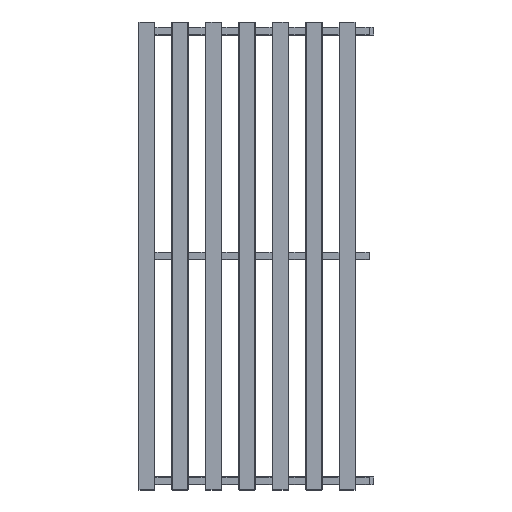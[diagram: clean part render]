
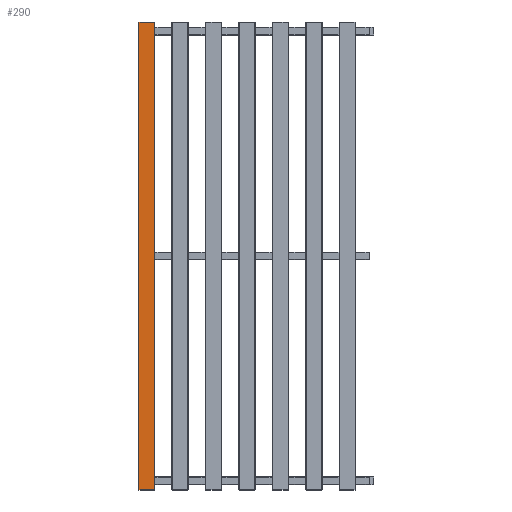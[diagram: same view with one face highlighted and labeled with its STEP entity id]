
A CAD part, top view. The second image highlights one B-rep face of the part: STEP entity #290.
In plain terms, the highlighted planar face has unit normal (0, 0, 1) as drawn and (1, 0, 0) by its records, which use the part's own axes.
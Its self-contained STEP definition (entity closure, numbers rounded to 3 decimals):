
#27 = EDGE_CURVE ( 'NONE', #2364, #4044, #741, .T. ) ;
#290 = ADVANCED_FACE ( 'NONE', ( #2454 ), #3863, .F. ) ;
#363 = DIRECTION ( 'NONE',  ( -1., 0., 0. ) ) ;
#537 = ORIENTED_EDGE ( 'NONE', *, *, #3704, .T. ) ;
#565 = LINE ( 'NONE', #2645, #1555 ) ;
#741 = LINE ( 'NONE', #2221, #3531 ) ;
#938 = DIRECTION ( 'NONE',  ( 0., 1., 0. ) ) ;
#998 = VECTOR ( 'NONE', #2089, 1000. ) ;
#1092 = CARTESIAN_POINT ( 'NONE',  ( 10., 19.6, -599.5 ) ) ;
#1302 = EDGE_LOOP ( 'NONE', ( #1939, #537, #3909, #3277 ) ) ;
#1503 = EDGE_CURVE ( 'NONE', #3278, #4044, #1568, .T. ) ;
#1555 = VECTOR ( 'NONE', #938, 1000. ) ;
#1568 = LINE ( 'NONE', #2974, #3102 ) ;
#1763 = LINE ( 'NONE', #3430, #998 ) ;
#1862 = EDGE_CURVE ( 'NONE', #3668, #3278, #565, .T. ) ;
#1939 = ORIENTED_EDGE ( 'NONE', *, *, #27, .F. ) ;
#2085 = DIRECTION ( 'NONE',  ( 0., 0., 1. ) ) ;
#2089 = DIRECTION ( 'NONE',  ( 0., 0., -1. ) ) ;
#2109 = CARTESIAN_POINT ( 'NONE',  ( 10., -19.6, -599.5 ) ) ;
#2221 = CARTESIAN_POINT ( 'NONE',  ( 10., -21., 599.5 ) ) ;
#2364 = VERTEX_POINT ( 'NONE', #4250 ) ;
#2454 = FACE_OUTER_BOUND ( 'NONE', #1302, .T. ) ;
#2559 = AXIS2_PLACEMENT_3D ( 'NONE', #4518, #363, #2085 ) ;
#2645 = CARTESIAN_POINT ( 'NONE',  ( 10., -21., -599.5 ) ) ;
#2974 = CARTESIAN_POINT ( 'NONE',  ( 10., 19.6, 599.5 ) ) ;
#3102 = VECTOR ( 'NONE', #4053, 1000. ) ;
#3277 = ORIENTED_EDGE ( 'NONE', *, *, #1503, .T. ) ;
#3278 = VERTEX_POINT ( 'NONE', #1092 ) ;
#3430 = CARTESIAN_POINT ( 'NONE',  ( 10., -19.6, 599.5 ) ) ;
#3531 = VECTOR ( 'NONE', #3908, 1000. ) ;
#3668 = VERTEX_POINT ( 'NONE', #2109 ) ;
#3704 = EDGE_CURVE ( 'NONE', #2364, #3668, #1763, .T. ) ;
#3863 = PLANE ( 'NONE',  #2559 ) ;
#3908 = DIRECTION ( 'NONE',  ( 0., 1., 0. ) ) ;
#3909 = ORIENTED_EDGE ( 'NONE', *, *, #1862, .T. ) ;
#4044 = VERTEX_POINT ( 'NONE', #4247 ) ;
#4053 = DIRECTION ( 'NONE',  ( 0., 0., 1. ) ) ;
#4247 = CARTESIAN_POINT ( 'NONE',  ( 10., 19.6, 599.5 ) ) ;
#4250 = CARTESIAN_POINT ( 'NONE',  ( 10., -19.6, 599.5 ) ) ;
#4518 = CARTESIAN_POINT ( 'NONE',  ( 10., -21., 599.5 ) ) ;
